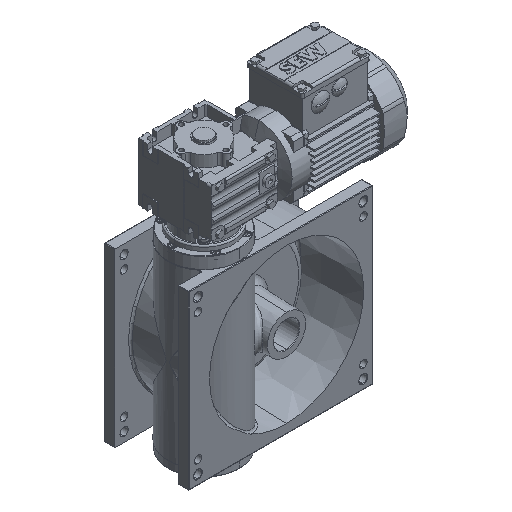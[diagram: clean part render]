
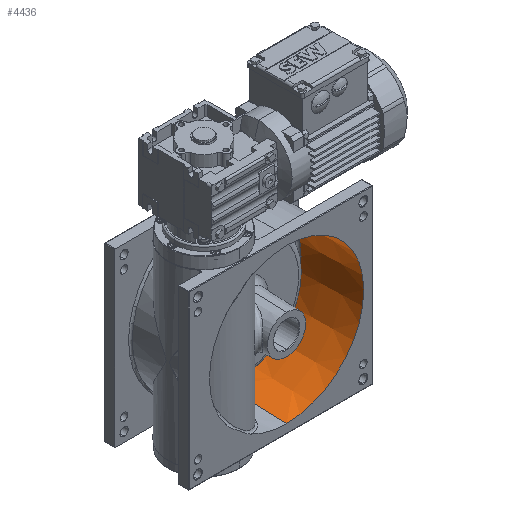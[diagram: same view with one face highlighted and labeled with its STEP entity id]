
A CAD part, isometric view. The second image highlights one B-rep face of the part: STEP entity #4436.
In plain terms, the highlighted conical face has half-angle 2 degrees and reference radius 104.105 mm.
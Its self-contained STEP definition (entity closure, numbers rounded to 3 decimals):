
#1019 = DIRECTION ( 'NONE',  ( 0., 0., 1. ) ) ;
#2208 = DIRECTION ( 'NONE',  ( 0., 1., 0. ) ) ;
#3376 = ORIENTED_EDGE ( 'NONE', *, *, #62862, .F. ) ;
#4436 = ADVANCED_FACE ( 'NONE', ( #14358 ), #34688, .F. ) ;
#5063 = DIRECTION ( 'NONE',  ( 0., 1., 0. ) ) ;
#5865 = CARTESIAN_POINT ( 'NONE',  ( 0., 0., -104.105 ) ) ;
#6274 = DIRECTION ( 'NONE',  ( 0., -0.999, -0.035 ) ) ;
#6330 = CARTESIAN_POINT ( 'NONE',  ( 0., 3., 104. ) ) ;
#10536 = VERTEX_POINT ( 'NONE', #48210 ) ;
#11753 = VECTOR ( 'NONE', #6274, 1000. ) ;
#12771 = LINE ( 'NONE', #5865, #11753 ) ;
#13424 = DIRECTION ( 'NONE',  ( 0., -0.999, 0.035 ) ) ;
#14358 = FACE_OUTER_BOUND ( 'NONE', #36684, .T. ) ;
#14623 = EDGE_CURVE ( 'NONE', #76505, #32528, #56112, .T. ) ;
#20009 = LINE ( 'NONE', #44227, #35095 ) ;
#22539 = ORIENTED_EDGE ( 'NONE', *, *, #58319, .F. ) ;
#32528 = VERTEX_POINT ( 'NONE', #61150 ) ;
#33376 = CARTESIAN_POINT ( 'NONE',  ( 0., 84.705, 0. ) ) ;
#33920 = DIRECTION ( 'NONE',  ( 0., 0., -1. ) ) ;
#34688 = CONICAL_SURFACE ( 'NONE', #80305, 104.105, 0.035 ) ;
#35095 = VECTOR ( 'NONE', #13424, 1000. ) ;
#36684 = EDGE_LOOP ( 'NONE', ( #22539, #72674, #76143, #3376 ) ) ;
#44227 = CARTESIAN_POINT ( 'NONE',  ( 0., 0., 104.105 ) ) ;
#45407 = VERTEX_POINT ( 'NONE', #6330 ) ;
#48210 = CARTESIAN_POINT ( 'NONE',  ( 0., 3., -104. ) ) ;
#48877 = CIRCLE ( 'NONE', #59323, 104. ) ;
#48881 = CARTESIAN_POINT ( 'NONE',  ( 0., 3., 0. ) ) ;
#56112 = CIRCLE ( 'NONE', #66517, 101.147 ) ;
#58319 = EDGE_CURVE ( 'NONE', #76505, #45407, #20009, .T. ) ;
#59323 = AXIS2_PLACEMENT_3D ( 'NONE', #48881, #5063, #33920 ) ;
#61150 = CARTESIAN_POINT ( 'NONE',  ( 0., 84.705, -101.147 ) ) ;
#62862 = EDGE_CURVE ( 'NONE', #45407, #10536, #48877, .T. ) ;
#64382 = CARTESIAN_POINT ( 'NONE',  ( 0., 0., 0. ) ) ;
#65241 = EDGE_CURVE ( 'NONE', #32528, #10536, #12771, .T. ) ;
#66517 = AXIS2_PLACEMENT_3D ( 'NONE', #33376, #2208, #1019 ) ;
#66720 = CARTESIAN_POINT ( 'NONE',  ( 0., 84.705, 101.147 ) ) ;
#72674 = ORIENTED_EDGE ( 'NONE', *, *, #14623, .T. ) ;
#72844 = DIRECTION ( 'NONE',  ( 0., 0., -1. ) ) ;
#76143 = ORIENTED_EDGE ( 'NONE', *, *, #65241, .T. ) ;
#76505 = VERTEX_POINT ( 'NONE', #66720 ) ;
#79000 = DIRECTION ( 'NONE',  ( 0., -1., 0. ) ) ;
#80305 = AXIS2_PLACEMENT_3D ( 'NONE', #64382, #79000, #72844 ) ;
